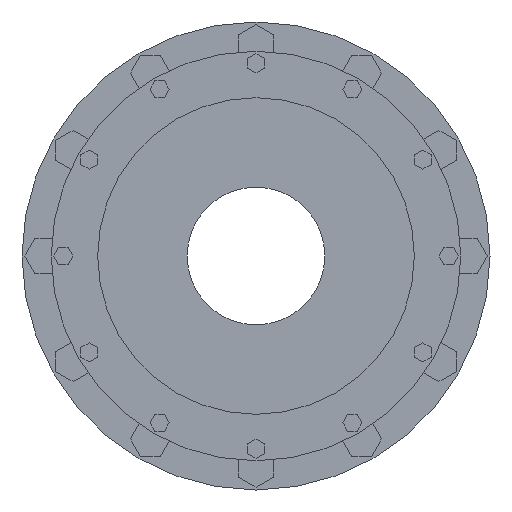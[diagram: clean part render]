
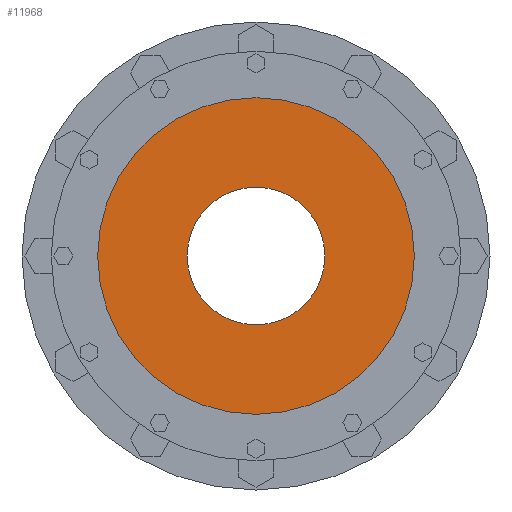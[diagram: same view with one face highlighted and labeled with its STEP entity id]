
A CAD part, left-side view. The second image highlights one B-rep face of the part: STEP entity #11968.
In plain terms, the highlighted planar face has unit normal (-1, 0, 0).
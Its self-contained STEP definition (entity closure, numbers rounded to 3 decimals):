
#11666=CARTESIAN_POINT('',(-340.,0.,0.));
#11667=DIRECTION('',(1.,0.,0.));
#11668=DIRECTION('',(0.,1.,0.));
#11669=AXIS2_PLACEMENT_3D('',#11666,#11667,#11668);
#11745=CARTESIAN_POINT('',(-340.,0.,0.));
#11746=DIRECTION('',(-1.,0.,0.));
#11747=DIRECTION('',(0.,1.,0.));
#11748=AXIS2_PLACEMENT_3D('',#11745,#11746,#11747);
#11750=CARTESIAN_POINT('',(-340.,0.,0.));
#11751=DIRECTION('',(1.,0.,0.));
#11752=DIRECTION('',(0.,1.,0.));
#11753=AXIS2_PLACEMENT_3D('',#11750,#11751,#11752);
#11764=CARTESIAN_POINT('',(-340.,0.,0.));
#11765=DIRECTION('',(-1.,0.,0.));
#11766=DIRECTION('',(0.,1.,0.));
#11767=AXIS2_PLACEMENT_3D('',#11764,#11765,#11766);
#11773=CARTESIAN_POINT('',(-340.,100.,0.));
#11774=CARTESIAN_POINT('',(-340.,-100.,0.));
#11775=VERTEX_POINT('',#11773);
#11776=VERTEX_POINT('',#11774);
#11777=CARTESIAN_POINT('',(-340.,230.,0.));
#11778=CARTESIAN_POINT('',(-340.,-230.,0.));
#11779=VERTEX_POINT('',#11777);
#11780=VERTEX_POINT('',#11778);
#11954=CARTESIAN_POINT('',(-340.,0.,0.));
#11955=DIRECTION('',(1.,0.,0.));
#11956=DIRECTION('',(0.,-1.,0.));
#11957=AXIS2_PLACEMENT_3D('',#11954,#11955,#11956);
#11958=PLANE('',#11957);
#11959=ORIENTED_EDGE('',*,*,#11936,.F.);
#11960=ORIENTED_EDGE('',*,*,#11949,.T.);
#11961=EDGE_LOOP('',(#11959,#11960));
#11962=FACE_OUTER_BOUND('',#11961,.F.);
#11963=ORIENTED_EDGE('',*,*,#11814,.F.);
#11965=ORIENTED_EDGE('',*,*,#11964,.T.);
#11966=EDGE_LOOP('',(#11963,#11965));
#11967=FACE_BOUND('',#11966,.F.);
#11968=ADVANCED_FACE('',(#11962,#11967),#11958,.F.);
#11670=CIRCLE('',#11669,100.);
#11749=CIRCLE('',#11748,230.);
#11754=CIRCLE('',#11753,230.);
#11768=CIRCLE('',#11767,100.);
#11814=EDGE_CURVE('',#11775,#11776,#11670,.T.);
#11936=EDGE_CURVE('',#11779,#11780,#11749,.T.);
#11949=EDGE_CURVE('',#11779,#11780,#11754,.T.);
#11964=EDGE_CURVE('',#11775,#11776,#11768,.T.);
